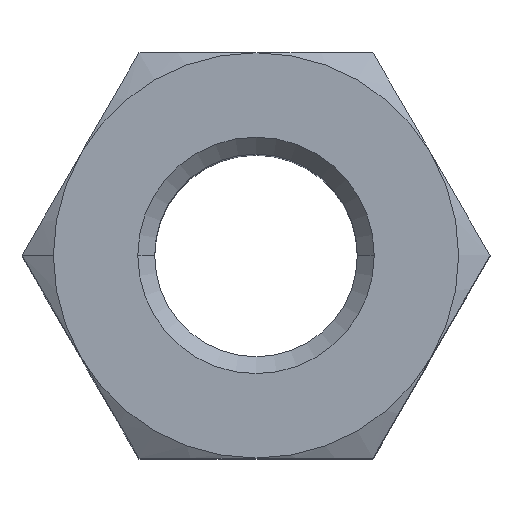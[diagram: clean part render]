
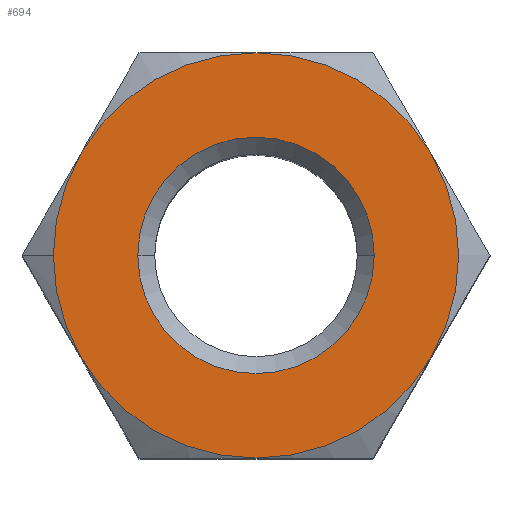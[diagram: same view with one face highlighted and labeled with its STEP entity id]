
A CAD part, top view. The second image highlights one B-rep face of the part: STEP entity #694.
In plain terms, the highlighted planar face has unit normal (0, 0, 1).
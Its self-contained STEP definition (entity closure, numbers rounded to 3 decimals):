
#12 = DIRECTION ( 'NONE',  ( 0., 0., -1. ) ) ;
#13 = AXIS2_PLACEMENT_3D ( 'NONE', #437, #12, #172 ) ;
#32 = EDGE_CURVE ( 'NONE', #503, #663, #533, .T. ) ;
#46 = FACE_BOUND ( 'NONE', #233, .T. ) ;
#70 = DIRECTION ( 'NONE',  ( -1., 0., 0. ) ) ;
#84 = CIRCLE ( 'NONE', #114, 3. ) ;
#87 = VERTEX_POINT ( 'NONE', #189 ) ;
#103 = CARTESIAN_POINT ( 'NONE',  ( 1.75, 0., 5. ) ) ;
#105 = DIRECTION ( 'NONE',  ( -1., 0., 0. ) ) ;
#113 = DIRECTION ( 'NONE',  ( 0., 0., 1. ) ) ;
#114 = AXIS2_PLACEMENT_3D ( 'NONE', #871, #409, #70 ) ;
#130 = AXIS2_PLACEMENT_3D ( 'NONE', #705, #501, #299 ) ;
#146 = CIRCLE ( 'NONE', #796, 1.75 ) ;
#171 = ORIENTED_EDGE ( 'NONE', *, *, #856, .T. ) ;
#172 = DIRECTION ( 'NONE',  ( -1., 0., 0. ) ) ;
#178 = CIRCLE ( 'NONE', #130, 1.75 ) ;
#189 = CARTESIAN_POINT ( 'NONE',  ( 2.598, 1.5, 5. ) ) ;
#192 = CARTESIAN_POINT ( 'NONE',  ( 0., 0., 5. ) ) ;
#200 = DIRECTION ( 'NONE',  ( 0., 0., 1. ) ) ;
#207 = VERTEX_POINT ( 'NONE', #423 ) ;
#219 = ORIENTED_EDGE ( 'NONE', *, *, #523, .T. ) ;
#220 = CARTESIAN_POINT ( 'NONE',  ( 0., 0., 5. ) ) ;
#224 = CARTESIAN_POINT ( 'NONE',  ( -2.598, -1.5, 5. ) ) ;
#233 = EDGE_LOOP ( 'NONE', ( #219, #252 ) ) ;
#234 = CARTESIAN_POINT ( 'NONE',  ( 2.598, -1.5, 5. ) ) ;
#238 = EDGE_CURVE ( 'NONE', #621, #503, #397, .T. ) ;
#250 = DIRECTION ( 'NONE',  ( 0., 0., -1. ) ) ;
#252 = ORIENTED_EDGE ( 'NONE', *, *, #312, .T. ) ;
#259 = DIRECTION ( 'NONE',  ( 0., 0., 1. ) ) ;
#275 = ORIENTED_EDGE ( 'NONE', *, *, #578, .T. ) ;
#299 = DIRECTION ( 'NONE',  ( -1., 0., 0. ) ) ;
#312 = EDGE_CURVE ( 'NONE', #594, #700, #146, .T. ) ;
#313 = AXIS2_PLACEMENT_3D ( 'NONE', #390, #259, #675 ) ;
#334 = CARTESIAN_POINT ( 'NONE',  ( 0., 0., 5. ) ) ;
#343 = DIRECTION ( 'NONE',  ( -1., 0., 0. ) ) ;
#369 = DIRECTION ( 'NONE',  ( -1., 0., 0. ) ) ;
#372 = CARTESIAN_POINT ( 'NONE',  ( -3., 0., 5. ) ) ;
#382 = AXIS2_PLACEMENT_3D ( 'NONE', #334, #200, #343 ) ;
#390 = CARTESIAN_POINT ( 'NONE',  ( 0., 0., 5. ) ) ;
#397 = CIRCLE ( 'NONE', #807, 3. ) ;
#409 = DIRECTION ( 'NONE',  ( 0., 0., 1. ) ) ;
#423 = CARTESIAN_POINT ( 'NONE',  ( -2.598, 1.5, 5. ) ) ;
#435 = DIRECTION ( 'NONE',  ( 0., 0., -1. ) ) ;
#437 = CARTESIAN_POINT ( 'NONE',  ( 0., 0., 5. ) ) ;
#441 = DIRECTION ( 'NONE',  ( 0., 0., 1. ) ) ;
#443 = ORIENTED_EDGE ( 'NONE', *, *, #515, .F. ) ;
#467 = VERTEX_POINT ( 'NONE', #234 ) ;
#468 = ORIENTED_EDGE ( 'NONE', *, *, #32, .T. ) ;
#498 = CARTESIAN_POINT ( 'NONE',  ( -1.75, 0., 5. ) ) ;
#501 = DIRECTION ( 'NONE',  ( 0., 0., -1. ) ) ;
#503 = VERTEX_POINT ( 'NONE', #224 ) ;
#515 = EDGE_CURVE ( 'NONE', #207, #835, #784, .T. ) ;
#517 = CIRCLE ( 'NONE', #643, 3. ) ;
#523 = EDGE_CURVE ( 'NONE', #700, #594, #178, .T. ) ;
#524 = FACE_OUTER_BOUND ( 'NONE', #693, .T. ) ;
#533 = CIRCLE ( 'NONE', #711, 3. ) ;
#535 = ORIENTED_EDGE ( 'NONE', *, *, #238, .T. ) ;
#572 = DIRECTION ( 'NONE',  ( -1., 0., 0. ) ) ;
#578 = EDGE_CURVE ( 'NONE', #663, #467, #517, .T. ) ;
#581 = PLANE ( 'NONE',  #612 ) ;
#594 = VERTEX_POINT ( 'NONE', #498 ) ;
#612 = AXIS2_PLACEMENT_3D ( 'NONE', #720, #250, #857 ) ;
#619 = ORIENTED_EDGE ( 'NONE', *, *, #736, .T. ) ;
#621 = VERTEX_POINT ( 'NONE', #372 ) ;
#636 = CARTESIAN_POINT ( 'NONE',  ( 0., 0., 5. ) ) ;
#643 = AXIS2_PLACEMENT_3D ( 'NONE', #220, #441, #369 ) ;
#645 = DIRECTION ( 'NONE',  ( 0., 0., 1. ) ) ;
#646 = CARTESIAN_POINT ( 'NONE',  ( 0., -3., 5. ) ) ;
#663 = VERTEX_POINT ( 'NONE', #646 ) ;
#669 = DIRECTION ( 'NONE',  ( -1., 0., 0. ) ) ;
#675 = DIRECTION ( 'NONE',  ( -1., 0., 0. ) ) ;
#693 = EDGE_LOOP ( 'NONE', ( #171, #535, #468, #275, #830, #619, #443 ) ) ;
#694 = ADVANCED_FACE ( 'NONE', ( #46, #524 ), #581, .F. ) ;
#700 = VERTEX_POINT ( 'NONE', #103 ) ;
#705 = CARTESIAN_POINT ( 'NONE',  ( 0., 0., 5. ) ) ;
#709 = CARTESIAN_POINT ( 'NONE',  ( 0., 0., 5. ) ) ;
#711 = AXIS2_PLACEMENT_3D ( 'NONE', #192, #113, #669 ) ;
#720 = CARTESIAN_POINT ( 'NONE',  ( 0., 0., 5. ) ) ;
#736 = EDGE_CURVE ( 'NONE', #87, #835, #846, .T. ) ;
#745 = CARTESIAN_POINT ( 'NONE',  ( 0., 3., 5. ) ) ;
#772 = CIRCLE ( 'NONE', #382, 3. ) ;
#784 = CIRCLE ( 'NONE', #13, 3. ) ;
#796 = AXIS2_PLACEMENT_3D ( 'NONE', #636, #435, #105 ) ;
#807 = AXIS2_PLACEMENT_3D ( 'NONE', #709, #645, #572 ) ;
#830 = ORIENTED_EDGE ( 'NONE', *, *, #836, .T. ) ;
#835 = VERTEX_POINT ( 'NONE', #745 ) ;
#836 = EDGE_CURVE ( 'NONE', #467, #87, #84, .T. ) ;
#846 = CIRCLE ( 'NONE', #313, 3. ) ;
#856 = EDGE_CURVE ( 'NONE', #207, #621, #772, .T. ) ;
#857 = DIRECTION ( 'NONE',  ( 1., 0., 0. ) ) ;
#871 = CARTESIAN_POINT ( 'NONE',  ( 0., 0., 5. ) ) ;
